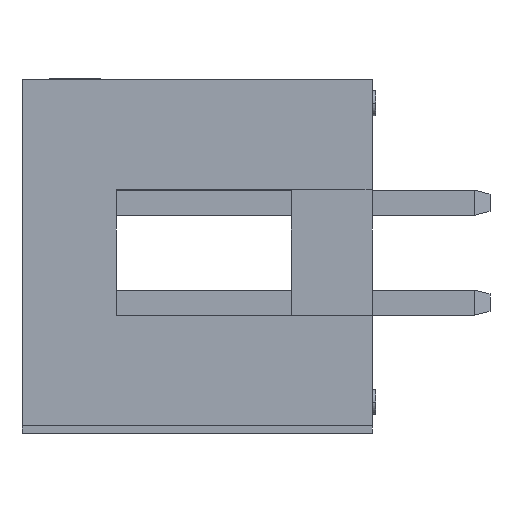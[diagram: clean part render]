
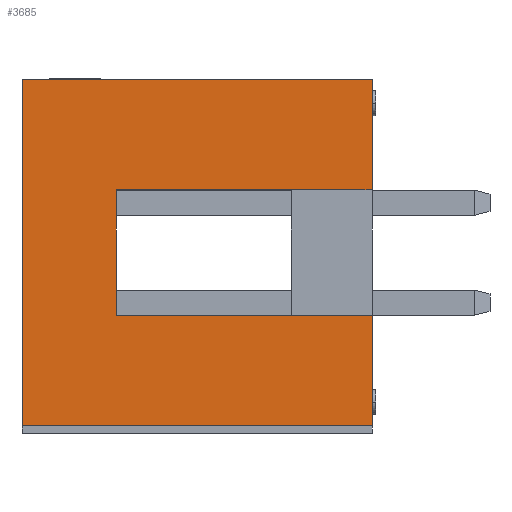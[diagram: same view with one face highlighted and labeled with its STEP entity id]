
A CAD part, left-side view. The second image highlights one B-rep face of the part: STEP entity #3685.
In plain terms, the highlighted planar face has unit normal (-1, 0, 0).
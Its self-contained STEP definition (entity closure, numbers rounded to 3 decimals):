
#510=DIRECTION('',(0.,0.,1.));
#511=VECTOR('',#510,8.8);
#512=CARTESIAN_POINT('',(-10.16,8.9,-4.4));
#513=LINE('',#512,#511);
#518=DIRECTION('',(0.,1.,0.));
#519=VECTOR('',#518,8.9);
#520=CARTESIAN_POINT('',(-10.16,0.,-4.4));
#521=LINE('',#520,#519);
#670=DIRECTION('',(0.,0.,1.));
#671=VECTOR('',#670,3.2);
#672=CARTESIAN_POINT('',(-10.16,6.5,-1.6));
#673=LINE('',#672,#671);
#674=DIRECTION('',(0.,0.,1.));
#675=VECTOR('',#674,2.8);
#676=CARTESIAN_POINT('',(-10.16,0.,-4.4));
#677=LINE('',#676,#675);
#678=DIRECTION('',(0.,0.,1.));
#679=VECTOR('',#678,2.8);
#680=CARTESIAN_POINT('',(-10.16,0.,1.6));
#681=LINE('',#680,#679);
#694=DIRECTION('',(0.,-1.,0.));
#695=VECTOR('',#694,6.5);
#696=CARTESIAN_POINT('',(-10.16,6.5,1.6));
#697=LINE('',#696,#695);
#718=DIRECTION('',(0.,1.,0.));
#719=VECTOR('',#718,6.5);
#720=CARTESIAN_POINT('',(-10.16,0.,-1.6));
#721=LINE('',#720,#719);
#858=DIRECTION('',(0.,-1.,0.));
#859=VECTOR('',#858,8.9);
#860=CARTESIAN_POINT('',(-10.16,8.9,4.4));
#861=LINE('',#860,#859);
#2254=CARTESIAN_POINT('',(-10.16,6.5,-1.6));
#2256=VERTEX_POINT('',#2254);
#2259=CARTESIAN_POINT('',(-10.16,6.5,1.6));
#2261=VERTEX_POINT('',#2259);
#2346=CARTESIAN_POINT('',(-10.16,0.,4.4));
#2347=VERTEX_POINT('',#2346);
#2348=CARTESIAN_POINT('',(-10.16,0.,1.6));
#2349=VERTEX_POINT('',#2348);
#2350=CARTESIAN_POINT('',(-10.16,0.,-4.4));
#2351=CARTESIAN_POINT('',(-10.16,0.,-1.6));
#2352=VERTEX_POINT('',#2350);
#2353=VERTEX_POINT('',#2351);
#2390=CARTESIAN_POINT('',(-10.16,8.9,-4.4));
#2391=VERTEX_POINT('',#2390);
#2392=CARTESIAN_POINT('',(-10.16,8.9,4.4));
#2393=VERTEX_POINT('',#2392);
#3666=CARTESIAN_POINT('',(-10.16,4.45,0.));
#3667=DIRECTION('',(1.,0.,0.));
#3668=DIRECTION('',(0.,0.,1.));
#3669=AXIS2_PLACEMENT_3D('',#3666,#3667,#3668);
#3670=PLANE('',#3669);
#3672=ORIENTED_EDGE('',*,*,#3671,.F.);
#3674=ORIENTED_EDGE('',*,*,#3673,.F.);
#3675=ORIENTED_EDGE('',*,*,#2961,.F.);
#3676=ORIENTED_EDGE('',*,*,#3477,.T.);
#3677=ORIENTED_EDGE('',*,*,#3457,.T.);
#3679=ORIENTED_EDGE('',*,*,#3678,.T.);
#3680=ORIENTED_EDGE('',*,*,#2969,.F.);
#3682=ORIENTED_EDGE('',*,*,#3681,.F.);
#3683=EDGE_LOOP('',(#3672,#3674,#3675,#3676,#3677,#3679,#3680,#3682));
#3684=FACE_OUTER_BOUND('',#3683,.F.);
#2961=EDGE_CURVE('',#2352,#2353,#677,.T.);
#2969=EDGE_CURVE('',#2349,#2347,#681,.T.);
#3457=EDGE_CURVE('',#2391,#2393,#513,.T.);
#3477=EDGE_CURVE('',#2352,#2391,#521,.T.);
#3671=EDGE_CURVE('',#2256,#2261,#673,.T.);
#3673=EDGE_CURVE('',#2353,#2256,#721,.T.);
#3678=EDGE_CURVE('',#2393,#2347,#861,.T.);
#3681=EDGE_CURVE('',#2261,#2349,#697,.T.);
#3685=ADVANCED_FACE('',(#3684),#3670,.F.);
